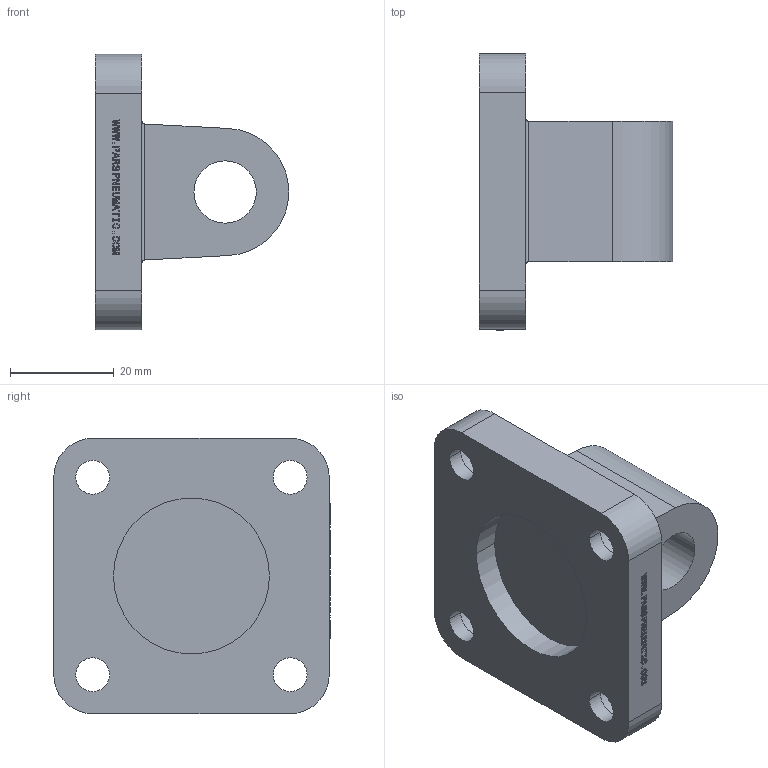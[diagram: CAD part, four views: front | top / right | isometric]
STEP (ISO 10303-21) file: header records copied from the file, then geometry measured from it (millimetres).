
FILE_DESCRIPTION(('CATIA V5 STEP Exchange'),'2;1');
FILE_NAME('D:\stp file for catalog\BAST-CA\CA 40.stp','2018-06-13T05:56:47+00:00',('none'),('none'),'CATIA Version 5-6 Release 2016','CATIA V5 STEP AP203','none');
FILE_SCHEMA(('CONFIG_CONTROL_DESIGN'));
Length unit declared in the file: millimetre
Products named in the file (1): PNC-CA 40-01
Bounding box: 37.25 x 53.2 x 53 mm (x, y, z)
Volume: 33308.5 mm3; surface area: 11798.8 mm2
Topology: 1 solids, 1 shells, 470 faces, 1305 edges, 870 vertices
Faces by surface type: plane 441, cylinder 29
Entity records: 14231 total; most frequent: ORIENTED_EDGE 2610, CARTESIAN_POINT 2567, DIRECTION 2015, EDGE_CURVE 1305, VECTOR 1247, LINE 1247, VERTEX_POINT 870, EDGE_LOOP 513
